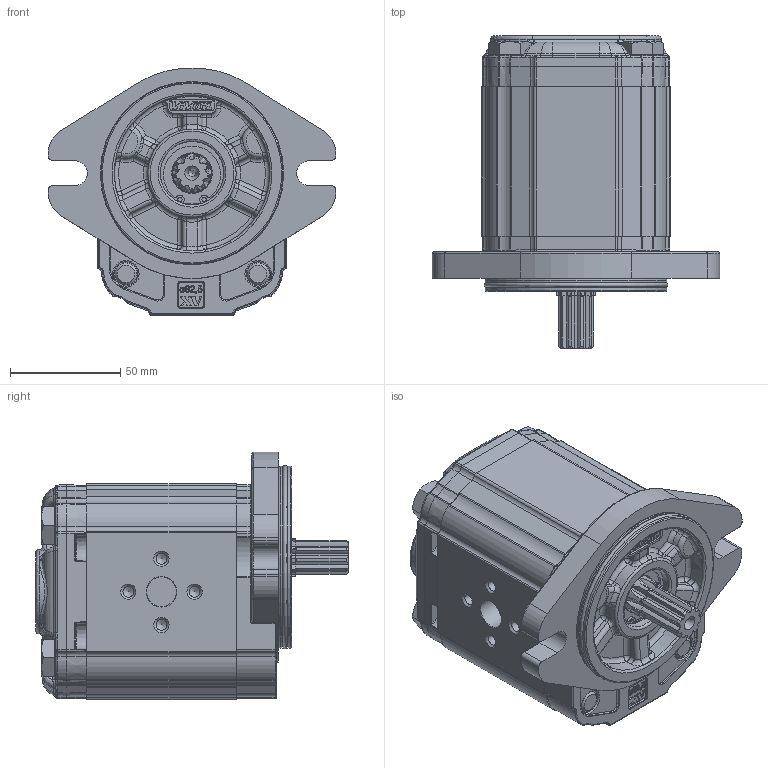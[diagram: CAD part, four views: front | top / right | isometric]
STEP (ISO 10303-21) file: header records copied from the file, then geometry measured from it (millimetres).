
FILE_DESCRIPTION(/* description */ ('Unknown'),/* implementation_level */ '2;1');
FILE_NAME(/* name */ 'X2U5152IPOA',/* time_stamp */ '2021-04-26T09:17:01+02:00',/* author */ ('Unknown'),/* organization */ ('Unknown'),/* preprocessor_version */ 'ST-DEVELOPER v16.7',/* originating_system */ 'Solid Edge',/* authorisation */ 'Unknown');
FILE_SCHEMA (('AUTOMOTIVE_DESIGN {1 0 10303 214 3 1 1}'));
Products named in the file (5): X2U5152IPOA; X2U52; 2I; X2POH68; XU219-A
Assembly tree (4 placements, depth 2):
  X2U5152IPOA
    X2U52
    2I
    X2POH68
    XU219-A
Bounding box: 130.38 x 141.7 x 112.3 mm (x, y, z)
Volume: 809884 mm3; surface area: 120665.3 mm2
Topology: 4 solids, 5 shells, 2230 faces, 5510 edges, 3347 vertices
Faces by surface type: cylinder 660, plane 592, bspline 537, torus 286, cone 117, sphere 38
Full cylindrical faces by diameter (mm): 2 x2, 4.917 x4, 6.647 x4, 10 x4, 10.5 x4, 11 x2, 11.5 x4, 13.5 x1, 16 x4, 17.42 x1, 18 x1, 20 x1, 20.595 x1, 23.332 x1, 25.834 x1, 28.5 x1, 28.56 x1, 28.57 x1, 28.8 x1, 30.4 x1, 79.6 x2, 82.5 x2
Entity records: 93010 total; most frequent: CARTESIAN_POINT 30285, ORIENTED_EDGE 10556, DIRECTION 8965, EDGE_CURVE 5278, AXIS2_PLACEMENT_3D 3437, VERTEX_POINT 3273, FACE_BOUND 2461, EDGE_LOOP 2452
